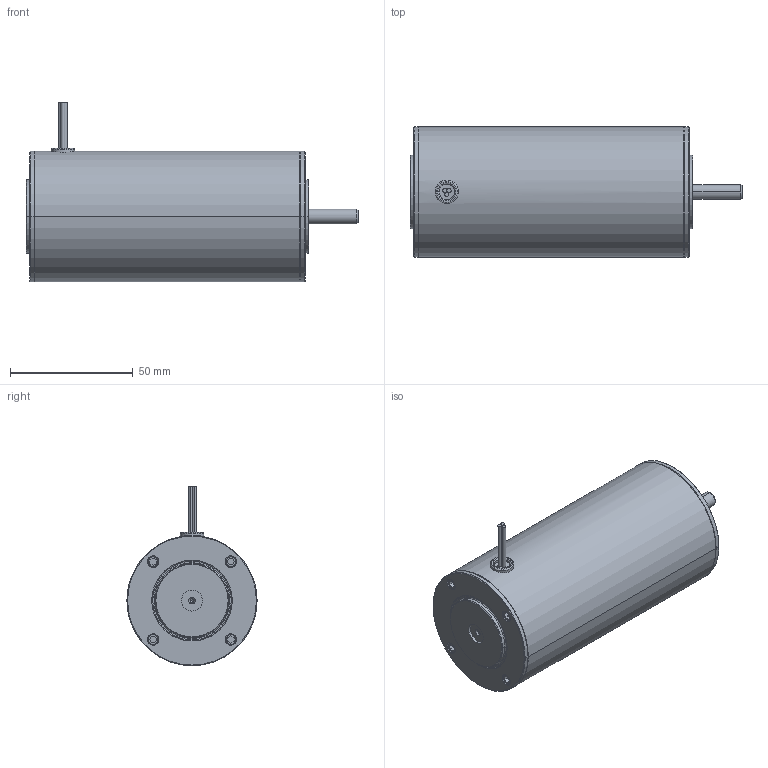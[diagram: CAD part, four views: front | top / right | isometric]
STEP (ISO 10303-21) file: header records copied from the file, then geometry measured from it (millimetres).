
FILE_DESCRIPTION (( 'STEP AP214' ), '1' );
FILE_NAME ('D562.STEP', '2011-01-31T08:46:59', ( ' ' ), ( '' ), 'SwSTEP 2.0', 'SolidWorks 2010', '' );
FILE_SCHEMA (( 'AUTOMOTIVE_DESIGN' ));
Length unit declared in the file: millimetre
Products named in the file (1): D562
Bounding box: 135 x 53 x 73 mm (x, y, z)
Volume: 249213.6 mm3; surface area: 24826.6 mm2
Topology: 4 solids, 4 shells, 206 faces, 464 edges, 284 vertices
Faces by surface type: plane 79, cone 62, cylinder 53, torus 12
Entity records: 6121 total; most frequent: CARTESIAN_POINT 1075, DIRECTION 1052, ORIENTED_EDGE 904, EDGE_CURVE 452, AXIS2_PLACEMENT_3D 397, VERTEX_POINT 284, VECTOR 258, LINE 258
